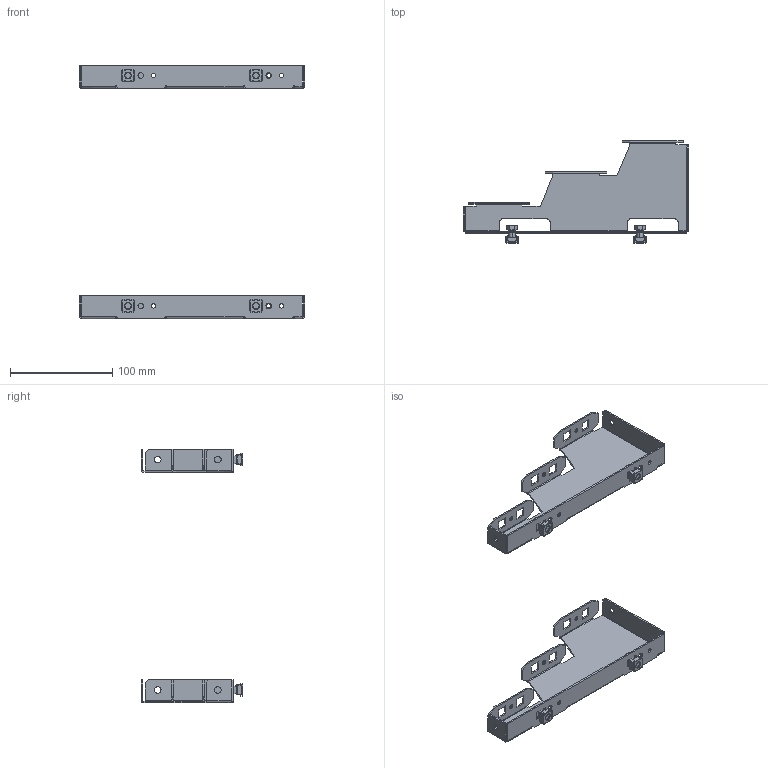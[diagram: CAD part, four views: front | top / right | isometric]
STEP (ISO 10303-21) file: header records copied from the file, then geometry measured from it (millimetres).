
FILE_DESCRIPTION(('CAx-IF Rec.Pracs.---Model Styling and Organization---1.2---2011-12-15','CAx-IF Rec.Pracs.---Geometric and Assembly Validation Properties---4.1---2014-06-16','CAx-IF Rec.Pracs.---PMI Polyline Presentation---2.0---2013-05-24'),'2;1');
FILE_NAME('R5BBLS3P.stp','2021-05-06T03:14:58+03:00',(''),(''),'STEP Interface 4.4 by CT CoreTechnologie','3D_Evolution4.4 by CT CoreTechnologie','');
FILE_SCHEMA(('AUTOMOTIVE_DESIGN { 1 0 10303 214 1 1 1 1 }'));
Length unit declared in the file: millimetre
Products named in the file (4): R5BBLS3P; RB.1302.00.00.0_-01; M6x12 DIN 933 cl.4,8 Zinc_straight; M6 A3400002 Zinc_straight
Assembly tree (10 placements, depth 2):
  R5BBLS3P
    RB.1302.00.00.0_-01  x2
    M6x12 DIN 933 cl.4,8 Zinc_straight  x4
    M6 A3400002 Zinc_straight  x4
Bounding box: 220 x 99.5 x 247.5 mm (x, y, z)
Surface area: 92089.7 mm2 (no closed solid volume)
Topology: 0 solids, 16 shells, 796 faces, 2260 edges, 1480 vertices
Faces by surface type: plane 488, cylinder 280, bspline 28
Entity records: 9319 total; most frequent: CARTESIAN_POINT 1765, ORIENTED_EDGE 1548, DIRECTION 1498, EDGE_CURVE 774, VECTOR 560, LINE 560, VERTEX_POINT 508, AXIS2_PLACEMENT_3D 469
